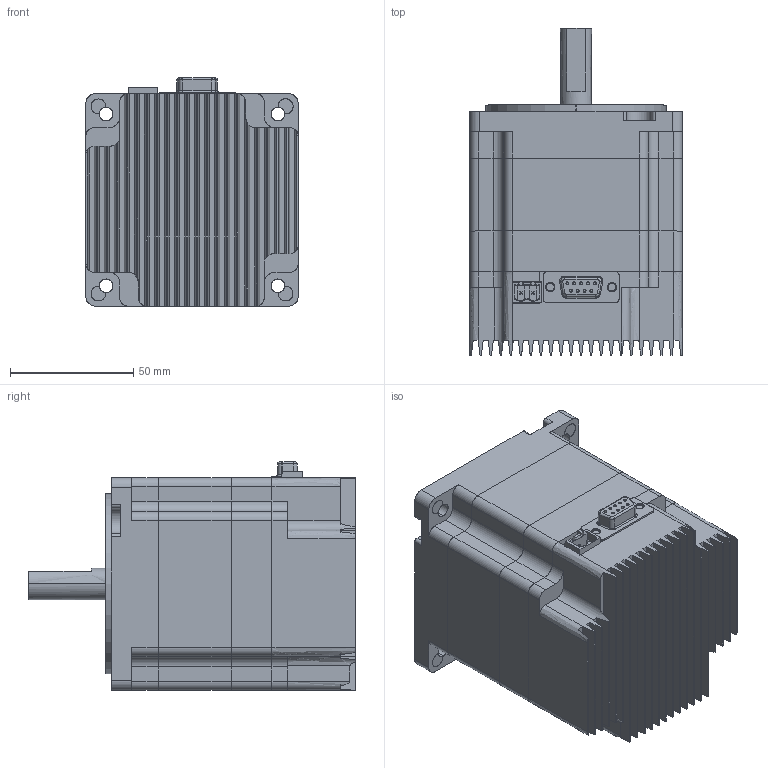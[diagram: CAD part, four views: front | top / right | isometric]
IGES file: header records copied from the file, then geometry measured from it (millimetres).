
Start section: SolidWorks IGES file using analytic representation for surfaces
Global section: file name: C:\Users\Christine\Documents\Arcus\DMX-K-DRV-34\DMX-K-DRV-34-1 Rev.IGS; native system: SolidWorks 2008; preprocessor: SolidWorks 2008; author: Christine; date: 130419.212046; units: millimetre
Bounding box: 85.95 x 132.33 x 92.39 mm (x, y, z)
Surface area: 109143.8 mm2 (no closed solid volume)
Topology: 0 solids, 0 shells, 647 faces, 6745 edges, 6745 vertices
Faces by surface type: bspline 393, revolution 254
